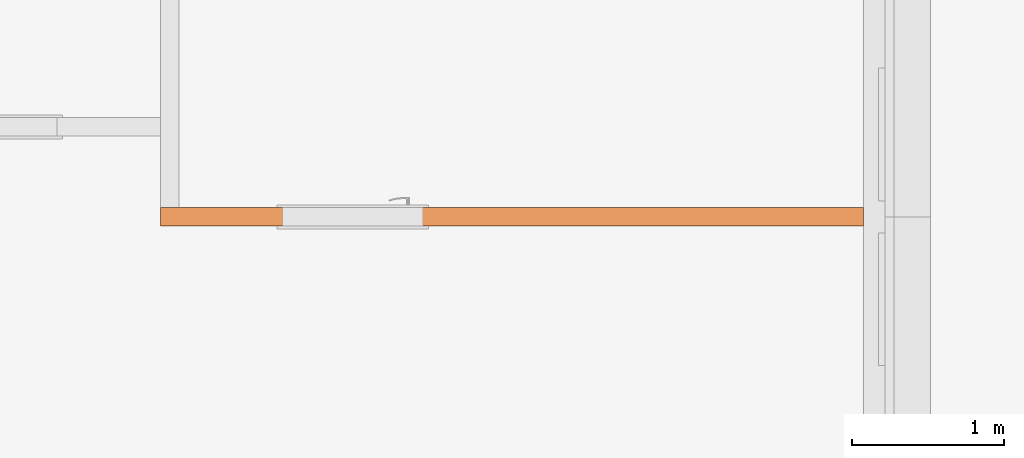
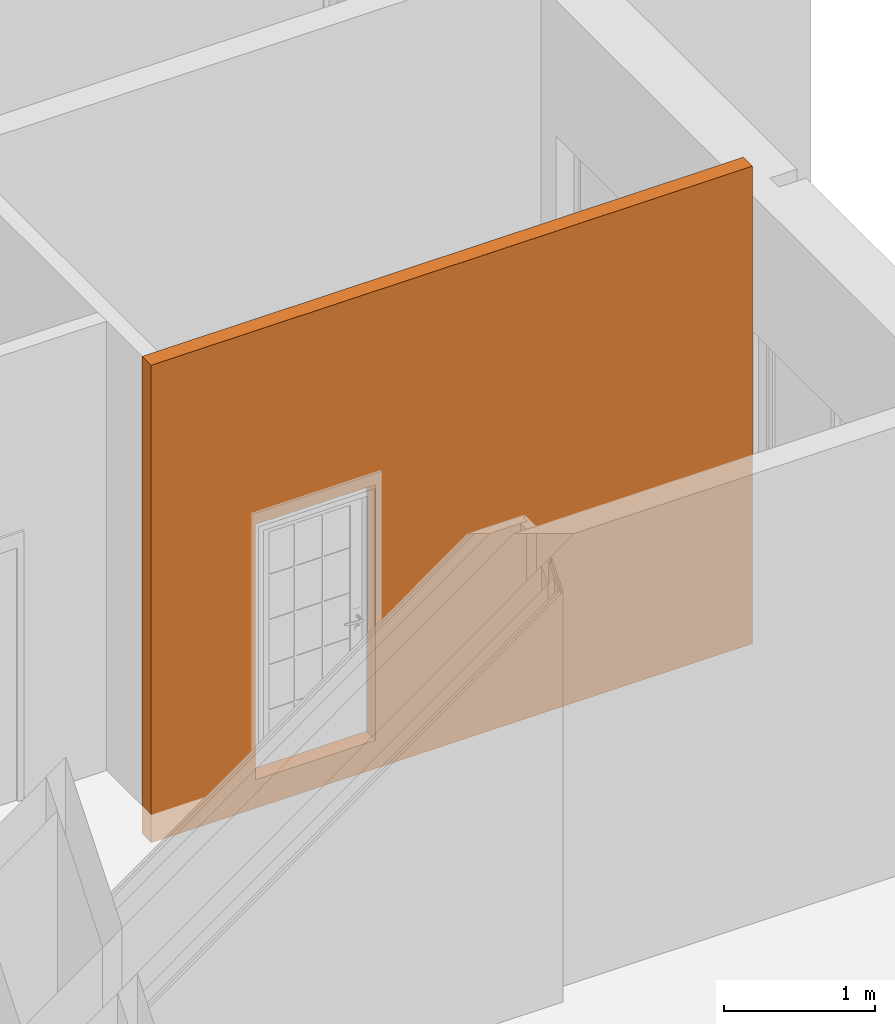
# One storey, part 23 of 46: 1 proxy, 1 opening.
"""IFC2X3 building model written with IfcOpenShell, lengths in millimetres."""

from ifc_helpers import new_model, entity, si_unit, converted_unit, derived_unit, money_unit, direction, frame, origin_with_axes, origin_2d_with_axis, place, context, subcontext, project, spatial, rectangle, extrude, faceted_brep, material, type_object, element, save


model = new_model("IFC2X3")

# Units and contexts
model_context = context("Model", 3, precision=0.01, world=origin_with_axes(), true_north=direction((0.34421633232, 0.938890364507)))
body_context = subcontext(model_context, "Body", "Model", "MODEL_VIEW")
ifc_project = project(units=[si_unit("LENGTHUNIT", "METRE", prefix="MILLI"), si_unit("AREAUNIT", "SQUARE_METRE"), si_unit("VOLUMEUNIT", "CUBIC_METRE"), converted_unit("PLANEANGLEUNIT", "DEGREE", entity("IfcPlaneAngleMeasure", 0.0174532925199), si_unit("PLANEANGLEUNIT", "RADIAN"), dimensions=[0, 0, 0, 0, 0, 0, 0]), si_unit("SOLIDANGLEUNIT", "STERADIAN"), money_unit("USD"), converted_unit("TIMEUNIT", "Year", entity("IfcTimeMeasure", 31556926.0), si_unit("TIMEUNIT", "SECOND"), dimensions=[0, 0, 1, 0, 0, 0, 0]), si_unit("MASSUNIT", "GRAM", prefix="KILO"), si_unit("THERMODYNAMICTEMPERATUREUNIT", "DEGREE_CELSIUS"), si_unit("LUMINOUSINTENSITYUNIT", "LUMEN"), si_unit("ENERGYUNIT", "JOULE", prefix="MEGA"), derived_unit("THERMALCONDUCTANCEUNIT", [(si_unit("POWERUNIT", "WATT"), 1), (si_unit("LENGTHUNIT", "METRE"), -1), (si_unit("THERMODYNAMICTEMPERATUREUNIT", "KELVIN"), -1)]), derived_unit("SPECIFICHEATCAPACITYUNIT", [(si_unit("ENERGYUNIT", "JOULE"), 1), (si_unit("MASSUNIT", "GRAM", prefix="KILO"), -1), (si_unit("THERMODYNAMICTEMPERATUREUNIT", "KELVIN"), -1)]), derived_unit("MASSDENSITYUNIT", [(si_unit("MASSUNIT", "GRAM", prefix="KILO"), 1), (si_unit("VOLUMEUNIT", "CUBIC_METRE"), -1)])], contexts=[model_context])

# Site, building, storey
site_placement = place(None, origin_with_axes())
site = spatial("IfcSite", under=ifc_project, at=site_placement, Name="USTRONIE MORSKIE", CompositionType="ELEMENT")
building_placement = place(site_placement, origin_with_axes())
building = spatial("IfcBuilding", under=site, at=building_placement, Name="Budynek", CompositionType="ELEMENT")
storey_placement = place(building_placement, origin_with_axes())
storey = spatial("IfcBuildingStorey", under=building, at=storey_placement, Name="PARTER", CompositionType="ELEMENT", Elevation=0.0)

# Proxy, opening
ifc_material = material(Name="Bloczki silikatowe")
building_element_proxy_type = type_object("IfcBuildingElementProxyType", Name="Bloczki silikatowe 120", PredefinedType="NOTDEFINED")
proxy_placement = place(storey_placement, frame((420917.920919, 724051.179686, -230.0), z_axis=(0.0, 0.0, 1.0), x_axis=(1.0, 0.0, 0.0)))
proxy = element("IfcBuildingElementProxy", 1, at=proxy_placement, inside=storey, type_object=building_element_proxy_type, material=ifc_material, Name="SW-04", context=body_context, shape_type="Brep", body=[
    faceted_brep([(4550.0, -59.9999999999, 3870.0), (4550.0, -59.9999999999, 0.0), (4550.0, 59.9999999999, 0.0), (4550.0, 59.9999999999, 3870.0), (-60.0, -59.9999999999, 0.0), (-60.0, -59.9999999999, 3870.0), (-60.0, 59.9999999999, 0.0), (-60.0, 59.9999999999, 3870.0)], [[[0, 1, 2, 3]], [[4, 1, 0, 5]], [[6, 2, 1, 4]], [[3, 2, 6, 7]], [[5, 0, 3, 7]], [[6, 4, 5, 7]]]),
])
opening_placement = place(proxy_placement, frame((1200.0, 0.0, 230.0), z_axis=(0.0, 0.0, 1.0), x_axis=(1.0, 0.0, 0.0)))
element("IfcOpeningElement", 2, at=opening_placement, cuts=proxy, Name="Dw.3", context=body_context, shape_type="SweptSolid", body=[
    extrude(rectangle(XDim=920.0, YDim=2070.0, at=origin_2d_with_axis()), frame((0.0, 120.0, 1035.0), z_axis=(0.0, 1.0, 0.0), x_axis=(-1.0, 0.0, 0.0)), (0.0, 0.0, -1.0), 360.0),
    extrude(rectangle(XDim=994.0, YDim=2177.0, at=origin_2d_with_axis()), frame((0.0, 60.0000000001, 1088.5), z_axis=(0.0, 1.0, 0.0), x_axis=(-1.0, 0.0, 0.0)), (0.0, 0.0, 1.0), 120.0),
    extrude(rectangle(XDim=994.0, YDim=2177.0, at=origin_2d_with_axis()), frame((0.0, -59.9999999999, 1088.5), z_axis=(0.0, -1.0, 0.0), x_axis=(-1.0, 0.0, 0.0)), (0.0, 0.0, 1.0), 120.0),
])

save(model, "model.ifc")
